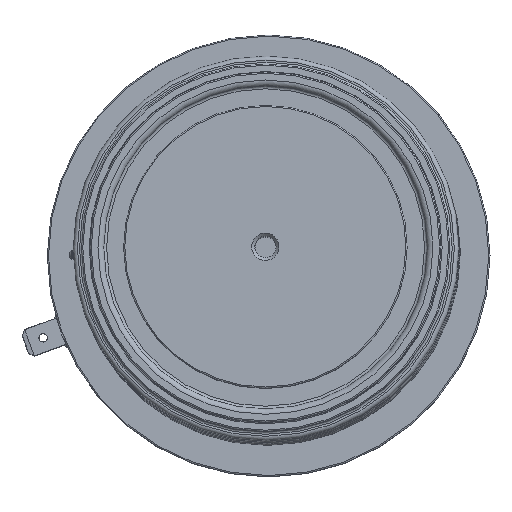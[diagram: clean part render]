
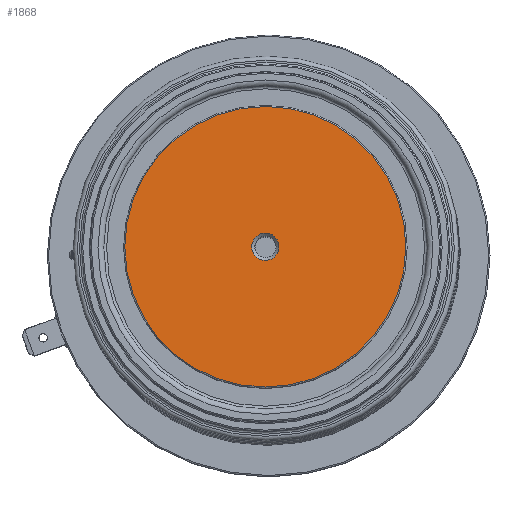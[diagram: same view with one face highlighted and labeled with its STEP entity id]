
A CAD part, front view. The second image highlights one B-rep face of the part: STEP entity #1868.
In plain terms, the highlighted planar face has unit normal (-0.023, -0.998, 0.064) as drawn and (0, 0, 1) by its records, which use the part's own axes.
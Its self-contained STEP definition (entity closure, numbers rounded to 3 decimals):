
#58=FACE_BOUND('',#446,.T.);
#113=PLANE('',#2080);
#328=FACE_OUTER_BOUND('',#445,.T.);
#445=EDGE_LOOP('',(#1311,#1312));
#446=EDGE_LOOP('',(#1313));
#600=CIRCLE('',#2074,2.275);
#605=CIRCLE('',#2081,23.5);
#606=CIRCLE('',#2082,23.5);
#790=VERTEX_POINT('',#3255);
#795=VERTEX_POINT('',#3269);
#796=VERTEX_POINT('',#3270);
#996=EDGE_CURVE('',#790,#790,#600,.T.);
#1003=EDGE_CURVE('',#795,#796,#605,.T.);
#1004=EDGE_CURVE('',#796,#795,#606,.T.);
#1311=ORIENTED_EDGE('',*,*,#1003,.T.);
#1312=ORIENTED_EDGE('',*,*,#1004,.T.);
#1313=ORIENTED_EDGE('',*,*,#996,.F.);
#1868=ADVANCED_FACE('',(#328,#58),#113,.T.);
#2074=AXIS2_PLACEMENT_3D('',#3256,#2432,#2433);
#2080=AXIS2_PLACEMENT_3D('',#3268,#2446,#2447);
#2081=AXIS2_PLACEMENT_3D('',#3271,#2448,#2449);
#2082=AXIS2_PLACEMENT_3D('',#3272,#2450,#2451);
#2432=DIRECTION('center_axis',(0.,0.,1.));
#2433=DIRECTION('ref_axis',(-1.,0.,0.));
#2446=DIRECTION('center_axis',(0.,0.,1.));
#2447=DIRECTION('ref_axis',(1.,0.,0.));
#2448=DIRECTION('center_axis',(0.,0.,1.));
#2449=DIRECTION('ref_axis',(1.,0.,0.));
#2450=DIRECTION('center_axis',(0.,0.,1.));
#2451=DIRECTION('ref_axis',(1.,0.,0.));
#3255=CARTESIAN_POINT('',(2.275,0.,0.));
#3256=CARTESIAN_POINT('Origin',(0.,0.,0.));
#3268=CARTESIAN_POINT('Origin',(0.,0.,0.));
#3269=CARTESIAN_POINT('',(23.5,0.,0.));
#3270=CARTESIAN_POINT('',(-23.5,0.,0.));
#3271=CARTESIAN_POINT('Origin',(0.,0.,0.));
#3272=CARTESIAN_POINT('Origin',(0.,0.,0.));
